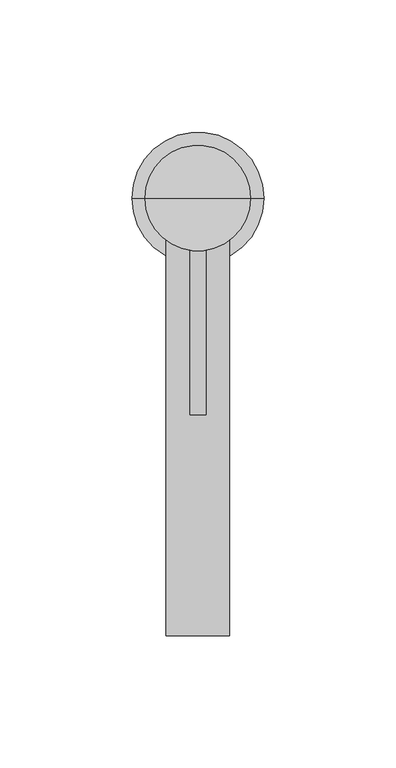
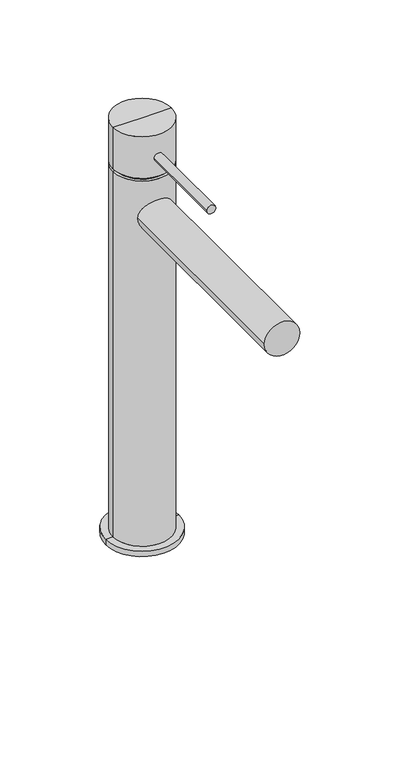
"""IFC4 building model written with IfcOpenShell, lengths in millimetres: flow terminal geometry, monomando lavabo - tubo : monomando lavabo - tubo."""

from ifc_helpers import new_model, si_unit, point, frame, frame_2d, origin, place, context, project, spatial, circle_curve, trimmed, segment, composite_curve, outline, extrude, source, transform, mapped, element, save
from ifc_brep_helpers import plane_surface, cylinder_surface, advanced_brep


def flow_terminal_5cc0e8a1(model_context):
    return source(origin(), model_context, "Body", "SolidModel", [
        extrude(outline(composite_curve([segment(trimmed(circle_curve(frame_2d((990.6419785, 0.0)), 12.0), [point((990.6419785, -12.0))], [point((990.6419785, 12.0))], False, "CARTESIAN"), True, "CONTINUOUS"), segment(trimmed(circle_curve(frame_2d((990.6419785, 0.0)), 12.0), [point((990.6419785, 12.0))], [point((990.6419785, -12.0))], False, "CARTESIAN"), True, "CONTINUOUS")], self_intersect=False)), frame((0.0, -165.7083161, 0.0), z_axis=(0.0, 1.0, 0.0), x_axis=(0.0, 0.0, 1.0)), (0.0, 0.0, 1.0), 165.7083161),
        extrude(outline(composite_curve([segment(trimmed(circle_curve(frame_2d((1033.2676852, 0.0)), 3.0), [point((1033.2676852, -3.0))], [point((1033.2676852, 3.0))], False, "CARTESIAN"), True, "CONTINUOUS"), segment(trimmed(circle_curve(frame_2d((1033.2676852, 0.0)), 3.0), [point((1033.2676852, 3.0))], [point((1033.2676852, -3.0))], False, "CARTESIAN"), True, "CONTINUOUS")], self_intersect=False)), frame((0.0, -82.0430665, 0.0), z_axis=(0.0, 1.0, 0.0), x_axis=(0.0, 0.0, 1.0)), (0.0, 0.0, 1.0), 82.0430665),
        advanced_brep(
        [(0.0, 0.0, 750.0), (-25.0, 0.0, 750.0), (25.0, 0.0, 750.0), (20.0, 0.0, 1050.0), (-20.0, 0.0, 1050.0), (0.0, 0.0, 1050.0), (20.0, 0.0, 1020.0), (-20.0, 0.0, 1020.0), (18.0, 0.0, 1020.0), (-18.0, 0.0, 1020.0), (18.0, 0.0, 1018.0), (-18.0, 0.0, 1018.0), (20.0, 0.0, 1018.0), (-20.0, 0.0, 1018.0), (20.0, 0.0, 754.0), (-20.0, 0.0, 754.0), (25.0, 0.0, 754.0), (-25.0, 0.0, 754.0)],
        [
            (0, 1),
            (1, 2, circle_curve(frame((0.0, 0.0, 750.0), z_axis=(0.0, 0.0, -1.0), x_axis=(-1.0, 0.0, 0.0)), 25.0)),
            (2, 0),
            (2, 1, circle_curve(frame((0.0, 0.0, 750.0), z_axis=(0.0, 0.0, -1.0), x_axis=(-1.0, 0.0, 0.0)), 25.0)),
            (3, 4, circle_curve(frame((0.0, 0.0, 1050.0), z_axis=(0.0, 0.0, 1.0), x_axis=(-1.0, 0.0, 0.0)), 20.0)),
            (4, 5),
            (5, 3),
            (4, 3, circle_curve(frame((0.0, 0.0, 1050.0), z_axis=(0.0, 0.0, 1.0), x_axis=(-1.0, 0.0, 0.0)), 20.0)),
            (6, 7, circle_curve(frame((0.0, 0.0, 1020.0), z_axis=(0.0, 0.0, 1.0), x_axis=(-1.0, 0.0, 0.0)), 20.0)),
            (7, 4),
            (3, 6),
            (7, 6, circle_curve(frame((0.0, 0.0, 1020.0), z_axis=(0.0, 0.0, 1.0), x_axis=(-1.0, 0.0, 0.0)), 20.0)),
            (8, 9, circle_curve(frame((0.0, 0.0, 1020.0), z_axis=(0.0, 0.0, 1.0), x_axis=(-1.0, 0.0, 0.0)), 18.0)),
            (9, 7),
            (6, 8),
            (9, 8, circle_curve(frame((0.0, 0.0, 1020.0), z_axis=(0.0, 0.0, 1.0), x_axis=(-1.0, 0.0, 0.0)), 18.0)),
            (10, 11, circle_curve(frame((0.0, 0.0, 1018.0), z_axis=(0.0, 0.0, 1.0), x_axis=(-1.0, 0.0, 0.0)), 18.0)),
            (11, 9),
            (8, 10),
            (11, 10, circle_curve(frame((0.0, 0.0, 1018.0), z_axis=(0.0, 0.0, 1.0), x_axis=(-1.0, 0.0, 0.0)), 18.0)),
            (12, 13, circle_curve(frame((0.0, 0.0, 1018.0), z_axis=(0.0, 0.0, 1.0), x_axis=(-1.0, 0.0, 0.0)), 20.0)),
            (13, 11),
            (10, 12),
            (13, 12, circle_curve(frame((0.0, 0.0, 1018.0), z_axis=(0.0, 0.0, 1.0), x_axis=(-1.0, 0.0, 0.0)), 20.0)),
            (14, 15, circle_curve(frame((0.0, 0.0, 754.0), z_axis=(0.0, 0.0, 1.0), x_axis=(-1.0, 0.0, 0.0)), 20.0)),
            (15, 13),
            (12, 14),
            (15, 14, circle_curve(frame((0.0, 0.0, 754.0), z_axis=(0.0, 0.0, 1.0), x_axis=(-1.0, 0.0, 0.0)), 20.0)),
            (16, 17, circle_curve(frame((0.0, 0.0, 754.0), z_axis=(0.0, 0.0, 1.0), x_axis=(-1.0, 0.0, 0.0)), 25.0)),
            (17, 15),
            (14, 16),
            (17, 16, circle_curve(frame((0.0, 0.0, 754.0), z_axis=(0.0, 0.0, 1.0), x_axis=(-1.0, 0.0, 0.0)), 25.0)),
            (1, 17),
            (16, 2),
        ],
        [
            plane_surface(frame((0.0, 0.0, 750.0), z_axis=(0.0, 0.0, -1.0), x_axis=(-1.0, 0.0, 0.0))),
            plane_surface(frame((0.0, 0.0, 1050.0), z_axis=(0.0, 0.0, 1.0), x_axis=(-1.0, 0.0, 0.0))),
            cylinder_surface(frame((0.0, 0.0, 725.0), z_axis=(0.0, 0.0, -1.0), x_axis=(-1.0, 0.0, 0.0)), 20.0),
            plane_surface(frame((0.0, 0.0, 1020.0), z_axis=(0.0, 0.0, -1.0), x_axis=(-1.0, 0.0, 0.0))),
            cylinder_surface(frame((0.0, 0.0, 725.0), z_axis=(0.0, 0.0, -1.0), x_axis=(-1.0, 0.0, 0.0)), 18.0),
            plane_surface(frame((0.0, 0.0, 1018.0), z_axis=(0.0, 0.0, 1.0), x_axis=(-1.0, 0.0, 0.0))),
            plane_surface(frame((0.0, 0.0, 754.0), z_axis=(0.0, 0.0, 1.0), x_axis=(-1.0, 0.0, 0.0))),
            cylinder_surface(frame((0.0, 0.0, 725.0), z_axis=(0.0, 0.0, -1.0), x_axis=(-1.0, 0.0, 0.0)), 25.0),
        ],
        [
            (0, [[1, 2, 3]]),
            (0, [[-3, 4, -1]]),
            (1, [[5, 6, 7]]),
            (1, [[8, -7, -6]]),
            (2, [[9, 10, -5, 11]]),
            (2, [[12, -11, -8, -10]]),
            (3, [[13, 14, -9, 15]]),
            (3, [[16, -15, -12, -14]]),
            (4, [[17, 18, -13, 19]]),
            (4, [[20, -19, -16, -18]]),
            (5, [[21, 22, -17, 23]]),
            (5, [[24, -23, -20, -22]]),
            (2, [[25, 26, -21, 27]]),
            (2, [[28, -27, -24, -26]]),
            (6, [[29, 30, -25, 31]]),
            (6, [[32, -31, -28, -30]]),
            (7, [[-2, 33, -29, 34]]),
            (7, [[-4, -34, -32, -33]]),
        ],
    ),
    ])


if __name__ == "__main__":
    model = new_model("IFC4")
    model_context = context("Model", 3, world=origin())
    ifc_project = project(units=[si_unit("LENGTHUNIT", "METRE", prefix="MILLI")], contexts=[model_context])
    site = spatial("IfcSite", under=ifc_project)
    building = spatial("IfcBuilding", under=site)
    placement = place(None, origin())
    flow_terminal_shape = flow_terminal_5cc0e8a1(model_context)
    element("IfcFlowTerminal", 1, ObjectType="monomando lavabo - tubo : monomando lavabo - tubo", at=placement, inside=building, context=model_context, shape_type="MappedRepresentation", body=[
        mapped(flow_terminal_shape, transform((0.0, 0.0, 0.0), x_axis=(1.0, 0.0, 0.0), y_axis=(0.0, 1.0, 0.0), z_axis=(0.0, 0.0, 1.0))),
    ])
    save(model, "model.ifc")
